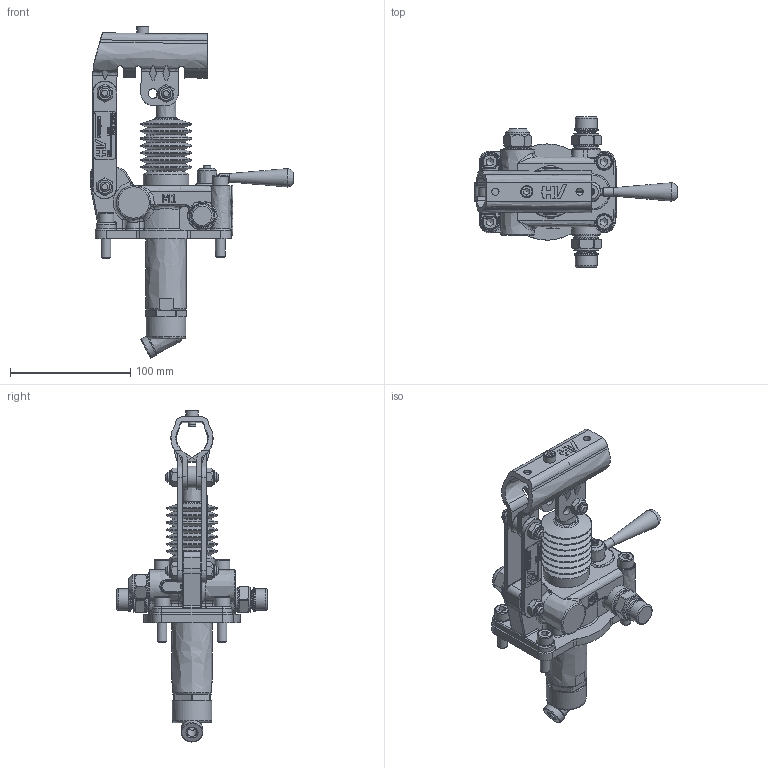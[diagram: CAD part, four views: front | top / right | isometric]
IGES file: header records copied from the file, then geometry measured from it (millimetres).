
Global section: file name: No Iges File Name specified; native system: Autodesk Inventor 2013; preprocessor: AutoDesk Inventor Iges Exporter R2013; author: christian.scardovi; date: 20240304.084128; units: millimetre
Bounding box: 169 x 125 x 276.08 mm (x, y, z)
Volume: 484144.1 mm3; surface area: 125449.5 mm2
Topology: 3 solids, 3 shells, 1525 faces, 3863 edges, 2448 vertices
Faces by surface type: bspline 1525
